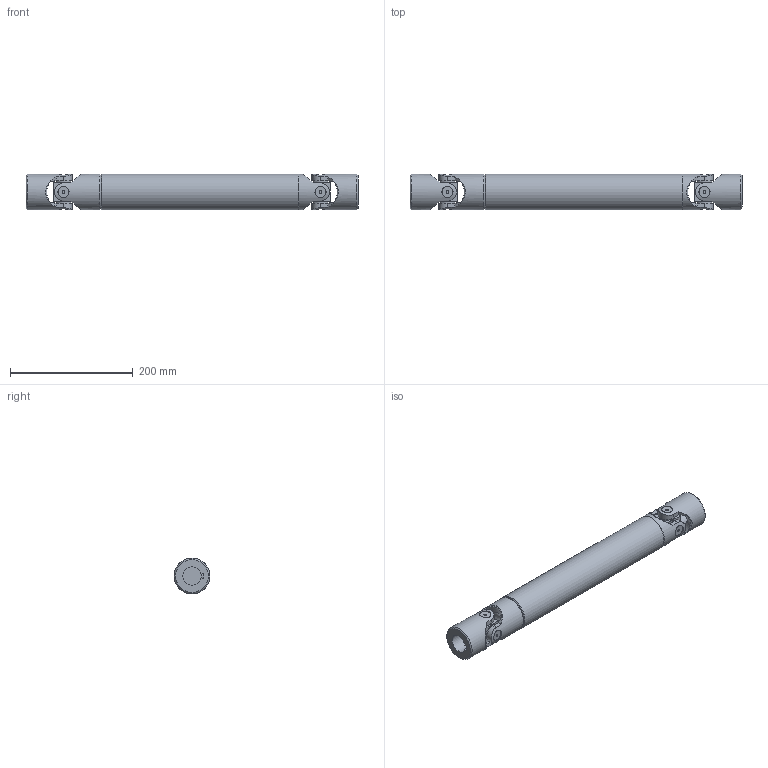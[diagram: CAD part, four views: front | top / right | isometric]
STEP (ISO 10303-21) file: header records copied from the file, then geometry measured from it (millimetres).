
FILE_DESCRIPTION(/* description */ (''),/* implementation_level */ '2;1');
FILE_NAME(/* name */ '\\SRV2016\Societa\Stefano\Disegni 3D\00Catalogo 3D\03Trasmissioni standard GA\6GA29\6GA29_SG0A3029.stp',/* time_stamp */ '2022-02-07T13:38:00+01:00',/* author */ ('acquisti'),/* organization */ (''),/* preprocessor_version */ 'ST-DEVELOPER v15.6',/* originating_system */ 'Autodesk Inventor 2015',/* authorisation */ '');
FILE_SCHEMA (('AUTOMOTIVE_DESIGN { 1 0 10303 214 3 1 1 }'));
Length unit declared in the file: millimetre
Products named in the file (5): 6GA29 LAI; 6GA29 LCI; 6G MOC; 6G SFE; 6GA29_SG0A3029
Assembly tree (6 placements, depth 2):
  6GA29_SG0A3029
    6GA29 LAI
    6GA29 LCI
    6G MOC  x2
    6G SFE  x2
Bounding box: 540 x 58.5 x 58.5 mm (x, y, z)
Volume: 1006065.7 mm3; surface area: 234208.9 mm2
Topology: 6 solids, 6 shells, 220 faces, 561 edges, 377 vertices
Faces by surface type: plane 114, cylinder 77, cone 25, torus 4
Full cylindrical faces by diameter (mm): 4 x8, 18 x8, 26 x8, 30 x1, 32 x2, 49 x1, 58 x4, 58.5 x1
Entity records: 5899 total; most frequent: CARTESIAN_POINT 1695, DIRECTION 847, ORIENTED_EDGE 832, EDGE_CURVE 416, AXIS2_PLACEMENT_3D 331, VERTEX_POINT 300, EDGE_LOOP 228, LINE 185
